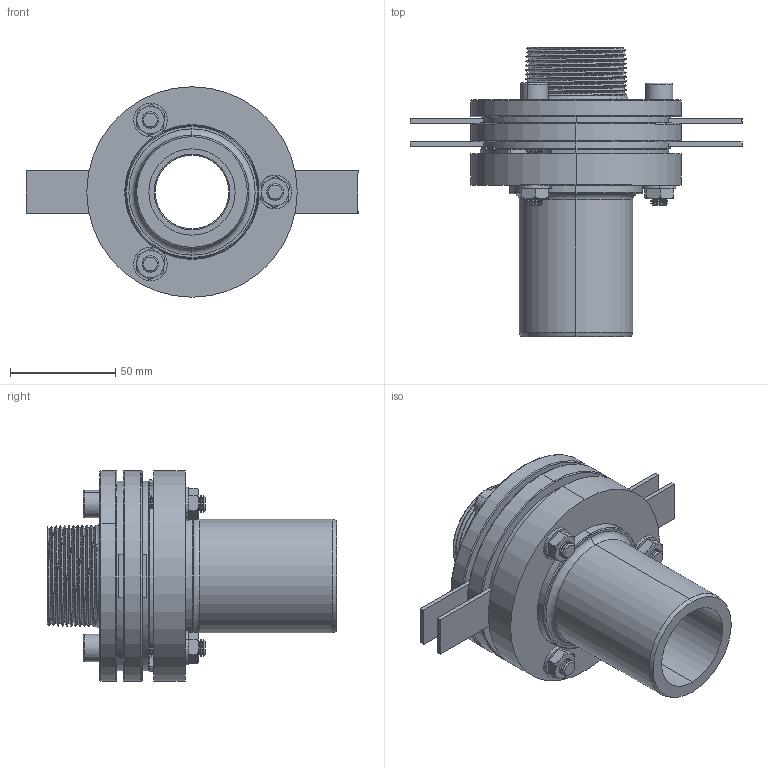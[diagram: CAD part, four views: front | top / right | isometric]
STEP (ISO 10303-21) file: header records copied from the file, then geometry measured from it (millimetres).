
FILE_DESCRIPTION (( 'STEP AP203' ), '1' );
FILE_NAME ('KP_C13-54M.step', '2011-08-08T12:02:02', ( '' ), ( '' ), 'SwSTEP 2.0', 'SolidWorks 2011', '' );
FILE_SCHEMA (( 'CONFIG_CONTROL_DESIGN' ));
Length unit declared in the file: millimetre
Products named in the file (1): KP_C13-54M
Bounding box: 157.75 x 137.5 x 100 mm (x, y, z)
Volume: 337184.8 mm3; surface area: 97329.4 mm2
Topology: 1 solids, 16 shells, 812 faces, 1803 edges, 1025 vertices
Faces by surface type: cylinder 340, cone 327, plane 108, torus 28, bspline 9
Entity records: 28043 total; most frequent: CARTESIAN_POINT 9708, DIRECTION 4174, ORIENTED_EDGE 3606, EDGE_CURVE 1803, AXIS2_PLACEMENT_3D 1695, VERTEX_POINT 1025, CIRCLE 891, EDGE_LOOP 858
